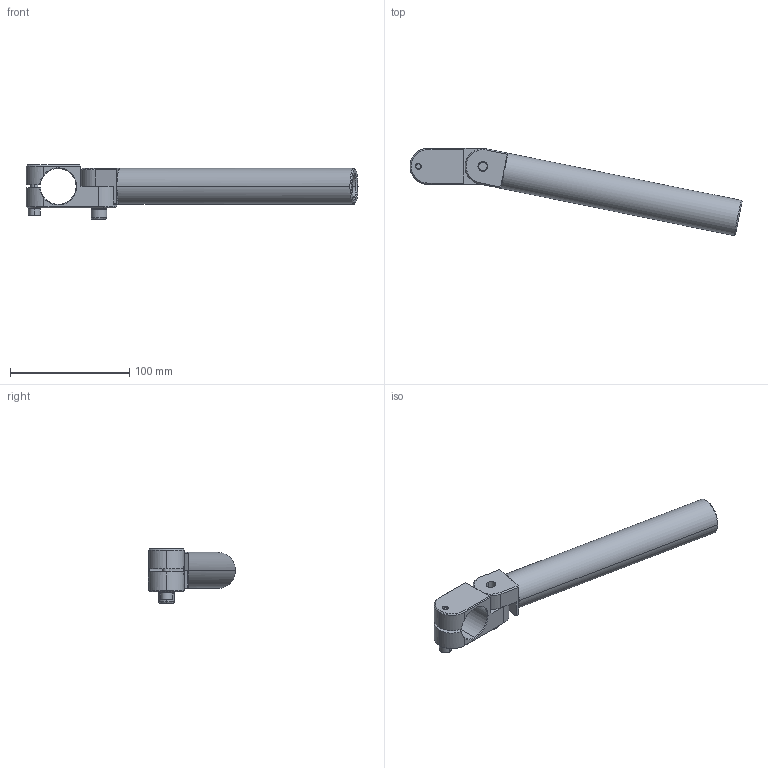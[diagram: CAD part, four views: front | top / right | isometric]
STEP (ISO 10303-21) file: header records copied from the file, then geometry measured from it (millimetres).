
FILE_DESCRIPTION (( 'STEP AP214' ), '1' );
FILE_NAME ('SEA-3030L200.STEP', '2019-11-11T03:13:56', ( '微软用户' ), ( '微软中国' ), 'SwSTEP 2.0', 'SolidWorks 2016', '' );
FILE_SCHEMA (( 'AUTOMOTIVE_DESIGN' ));
Length unit declared in the file: millimetre
Products named in the file (1): SEA-3030L200
Bounding box: 277.93 x 72.87 x 45.4 mm (x, y, z)
Volume: 135659.9 mm3; surface area: 50439.9 mm2
Topology: 6 solids, 6 shells, 520 faces, 1478 edges, 955 vertices
Faces by surface type: plane 437, cylinder 37, cone 26, bspline 20
Entity records: 25190 total; most frequent: CARTESIAN_POINT 5638, ORIENTED_EDGE 2924, DIRECTION 2917, EDGE_CURVE 1462, AXIS2_PLACEMENT_3D 990, VERTEX_POINT 955, VECTOR 937, LINE 937
